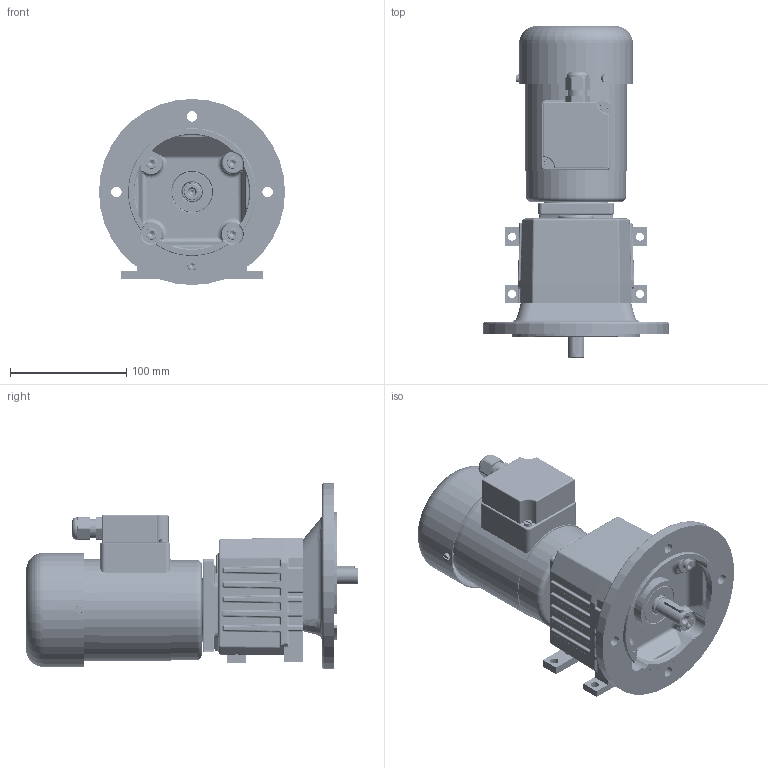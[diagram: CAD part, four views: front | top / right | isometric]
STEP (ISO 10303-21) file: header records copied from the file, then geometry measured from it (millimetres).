
FILE_DESCRIPTION(/* description */ (''),/* implementation_level */ '2;1');
FILE_NAME(/* name */ 'H:/CAD/CAD_Fusion360/Modelle_2D_3D/stp -Dateiformat/Reihe_G2/G239-G269/Motor 0,03 kW/G239_G269-03-4_B3B5_KK_C.step',/* time_stamp */ '2022-02-04T14:04:55+01:00',/* author */ (''),/* organization */ (''),/* preprocessor_version */ 'ST-DEVELOPER v18.1',/* originating_system */ 'Autodesk Translation Framework v10.13.0.1454',/* authorisation */ '');
FILE_SCHEMA (('AUTOMOTIVE_DESIGN { 1 0 10303 214 3 1 1 }'));
Products named in the file (50): G239_G269-03-4_B3B5_KK_C; BG_G239_G269_B14_Grundteile; 1200053010_09_Gehaeuse_B14_B5_239_269; 1210053120_00; 1931200005 OR6-1 Rundschnurring; 1200053300_00; 1932014504 M5x12 DIN965 Senkkopfschraube; 1200053280_02; 1932010012 M5x12 DIN912 Zylinderschraube; 1933210008 35x1,5 DIN472 Sicherungsring; 1210053030_00_Abtriebswelle_239_269; 1933200010 A17x1 DIN471 Sicherungsring; 1933200003 A10x1 DIN471 Sicherungsring; 1935400041 PS17x24x1 DIN988 Passscheibe; 1930040004 6003 2RS DIN625 Rillenkugellager; _HPC - S6003-2RS_PART1; _HPC - S6003-2RS_PART2; _HPC - S6003-2RS_PART3; _HPC - S6003-2RS_PART4; _HPC - S6003-2RS_PART5; 1930040002 6000 2RS DIN625 Rillenkugellager; _HPC - S6000-2RS_PART1; _HPC - S6000-2RS_PART2; _HPC - S6000-2RS_PART3; _HPC - S6000-2RS_PART4; _HPC - S6000-2RS_PART5; 1932500029 A5x5x22 DIN6885 Passfeder; 1931000033 RDR17x35x7 DIN3760 Radialdichtring; 1932010013 M5x16 DIN912 Zylinderschraube; 1933100006 A5,3 DIN6797 Zahnscheibe; 1932007003 M10x1 DIN906 Verschlussschraube; 1931200040 OR54-1,5 Rundschnurring; BG_G239_G269_B3_Baugruppe; 1220053060_02; 1932014506 M6x12 DIN965 Senkkopfschraaube; 1932010002; 1200053210_01; BG_G239_G269_B5_Baugruppe; 1932010031 M6x20 DIN912 Zylinderschraube; 1210053220_00_Flansch_B5_Abtrieb_G239_269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
Assembly tree (94 placements, depth 4):
  G239_G269-03-4_B3B5_KK_C
    BG_G239_G269_B14_Grundteile
      1200053010_09_Gehaeuse_B14_B5_239_269
      1210053120_00  x2
      1931200005 OR6-1 Rundschnurring  x2
      1200053300_00
      1932014504 M5x12 DIN965 Senkkopfschraube
      1200053280_02
      1932010012 M5x12 DIN912 Zylinderschraube  x2
      1933210008 35x1,5 DIN472 Sicherungsring  x2
      1210053030_00_Abtriebswelle_239_269
      1933200010 A17x1 DIN471 Sicherungsring
      1933200003 A10x1 DIN471 Sicherungsring
      1935400041 PS17x24x1 DIN988 Passscheibe
      1930040004 6003 2RS DIN625 Rillenkugellager
        _HPC - S6003-2RS_PART1
        _HPC - S6003-2RS_PART2
        _HPC - S6003-2RS_PART3
        _HPC - S6003-2RS_PART4
        _HPC - S6003-2RS_PART5  x8
      1930040002 6000 2RS DIN625 Rillenkugellager
        _HPC - S6000-2RS_PART1
        _HPC - S6000-2RS_PART2
        _HPC - S6000-2RS_PART3
        _HPC - S6000-2RS_PART4
        _HPC - S6000-2RS_PART5  x8
      1932500029 A5x5x22 DIN6885 Passfeder
      1931000033 RDR17x35x7 DIN3760 Radialdichtring
      1932010013 M5x16 DIN912 Zylinderschraube  x7
      1933100006 A5,3 DIN6797 Zahnscheibe  x7
      1932007003 M10x1 DIN906 Verschlussschraube
      1931200040 OR54-1,5 Rundschnurring
    BG_G239_G269_B3_Baugruppe
      1220053060_02
      1932014506 M6x12 DIN965 Senkkopfschraaube  x2
      1932010002  x2
      1200053210_01
    BG_G239_G269_B5_Baugruppe
      1932010031 M6x20 DIN912 Zylinderschraube  x4
      1210053220_00_Flansch_B5_Abtrieb_G239_269
    BG_1222011020_G2_Motoranbau_0,03kW Kopieren
      1220013130_02
      1931000017 RDR12x25x5 DIN3760 Radialdichtring
      1220013150_02_Kupplungshülse_G2_Motor
      1931300005 Al4x8 DIN7603 Dichtscheibe  x4
      1932010004 M4x16 DIN912 Zylinderschraube  x4
    BG_1222013060_G2_Motor_0,03kW_KK_C
      1220013060_G2_Motor_0,02_0,03kW_Dummy
        1932001015  x5
        Kabelverschraubung
Bounding box: 160 x 285.4 x 160 mm (x, y, z)
Volume: 1476569.1 mm3; surface area: 355576.3 mm2
Topology: 91 solids, 96 shells, 3225 faces, 7898 edges, 4846 vertices
Faces by surface type: plane 1227, cylinder 1141, bspline 263, cone 242, torus 235, sphere 117
Full cylindrical faces by diameter (mm): 0.314 x5, 1.25 x1, 1.5 x2, 1.7 x2, 2.5 x4, 3.332 x6, 3.5 x8, 3.571 x5, 3.961 x10, 4 x11, 4.17 x1, 4.2 x19, 4.234 x7, 4.5 x6, 4.701 x16, 5 x22, 5.035 x2, 5.3 x15, 5.5 x10, 6 x18, 6.5 x2, 6.6 x6, 7 x14, 7.9 x6, 8 x17, 8.5 x9, 9 x6, 9.5 x7, 9.6 x2, 10 x9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
Entity records: 106782 total; most frequent: CARTESIAN_POINT 48710, DIRECTION 12118, ORIENTED_EDGE 11456, EDGE_CURVE 5728, AXIS2_PLACEMENT_3D 4773, VERTEX_POINT 3547, EDGE_LOOP 2743, LINE 2572
